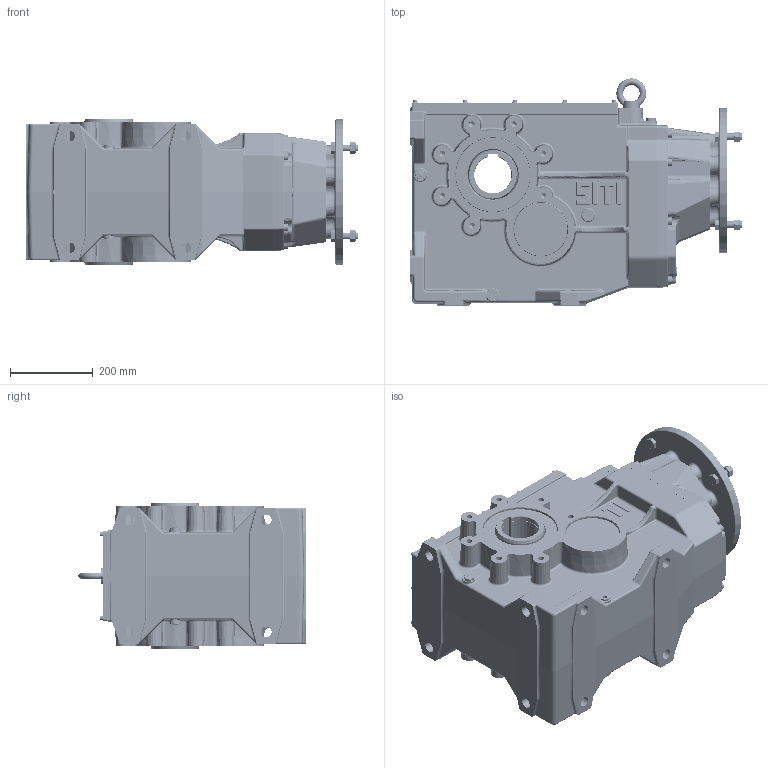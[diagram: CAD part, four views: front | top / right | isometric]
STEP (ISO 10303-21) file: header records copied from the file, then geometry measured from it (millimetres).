
FILE_DESCRIPTION((''),'2;1');
FILE_NAME('O:\Figurini\Figurini BH\3D\160\MBH 160 C PAM 160 B5.stp','2013-05-16T17:15:09',('d.iannaccio'),(''),'Autodesk Inventor 2012','Autodesk Inventor 2012','');
FILE_SCHEMA(('AUTOMOTIVE_DESIGN { 1 0 10303 214 1 1 1 1 }'));
Length unit declared in the file: millimetre
Products named in the file (1): MBH_160 C PAM 160 B5
Bounding box: 801 x 547.96 x 350 mm (x, y, z)
Volume: 24874780.9 mm3; surface area: 3561917.3 mm2
Topology: 66 solids, 68 shells, 4224 faces, 10096 edges, 5961 vertices
Faces by surface type: plane 1153, cylinder 1143, bspline 826, torus 529, cone 466, sphere 107
Full cylindrical faces by diameter (mm): 1.5 x1, 4.917 x12, 6 x24, 6.4 x12, 7 x12, 10 x12, 10.106 x16, 11 x2, 12 x38, 12.5 x14, 13 x16, 13.835 x14, 14.95 x8, 16 x8, 17.294 x3, 18 x16, 18.5 x4, 20.5 x16, 22 x1, 22.49 x4, 24 x1, 25 x1, 25.08 x1, 26 x9, 30 x5, 40 x1, 52 x1, 72 x1, 74.975 x2, 75.35 x1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
Entity records: 158814 total; most frequent: CARTESIAN_POINT 65155, DIRECTION 18206, ORIENTED_EDGE 18152, EDGE_CURVE 9076, AXIS2_PLACEMENT_3D 7721, VERTEX_POINT 5702, EDGE_LOOP 5065, STYLED_ITEM 4289
